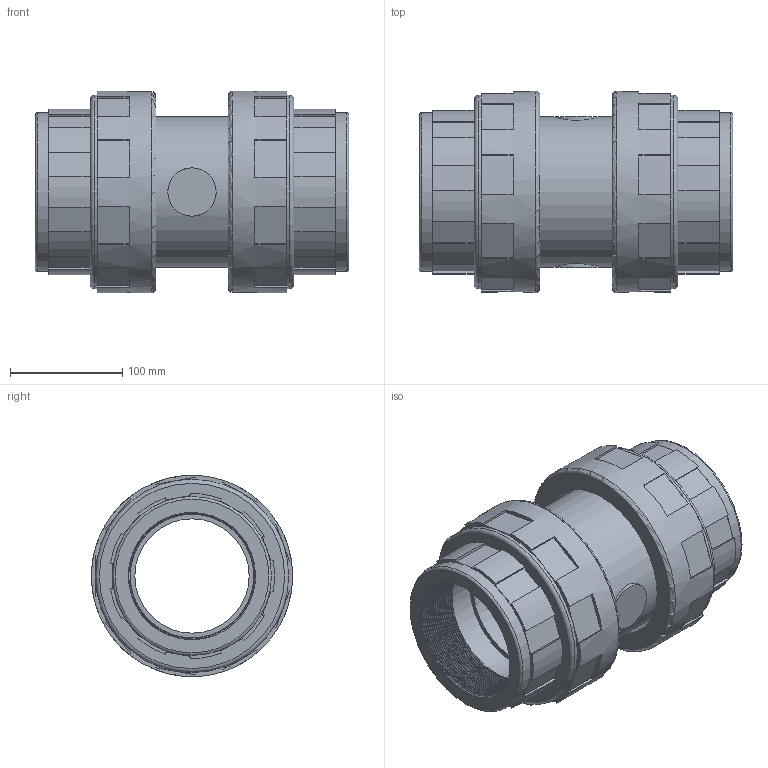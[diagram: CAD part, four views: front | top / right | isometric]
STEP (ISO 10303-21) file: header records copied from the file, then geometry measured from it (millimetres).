
FILE_DESCRIPTION(/* description */ (''),/* implementation_level */ '2;1');
FILE_NAME(/* name */ 'C:\Users\POLYPIPE\Desktop\DATASET INVENTOR\LIBRERIA EFFAST\3D_VALVOLE\3D_VALVOLE NON RITORNO\3D_CV\3D_CERCVE\3D_CERCVE110L.stp',/* time_stamp */ '2018-01-25T17:54:44+01:00',/* author */ ('POLYPIPE'),/* organization */ ('TraceParts S.A.'),/* preprocessor_version */ 'ST-DEVELOPER v16.1',/* originating_system */ 'Autodesk Inventor 2016',/* authorisation */ '');
FILE_SCHEMA (('CONFIG_CONTROL_DESIGN'));
Length unit declared in the file: millimetre
Products named in the file (1): 3D_CERCVE110L CEPEX
Bounding box: 279 x 178.99 x 178.99 mm (x, y, z)
Volume: 2816009.5 mm3; surface area: 363239.9 mm2
Topology: 1 solids, 1 shells, 228 faces, 601 edges, 385 vertices
Faces by surface type: plane 176, cylinder 34, bspline 10, torus 6, cone 2
Full cylindrical faces by diameter (mm): 101.727 x1, 110.072 x2, 134.25 x1, 140.157 x2, 141.287 x2, 171.84 x2, 179 x2
Entity records: 19322 total; most frequent: CARTESIAN_POINT 13763, ORIENTED_EDGE 1148, DIRECTION 1124, EDGE_CURVE 574, LINE 402, VECTOR 402, VERTEX_POINT 376, AXIS2_PLACEMENT_3D 361
